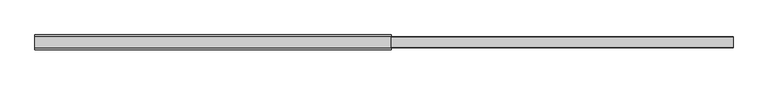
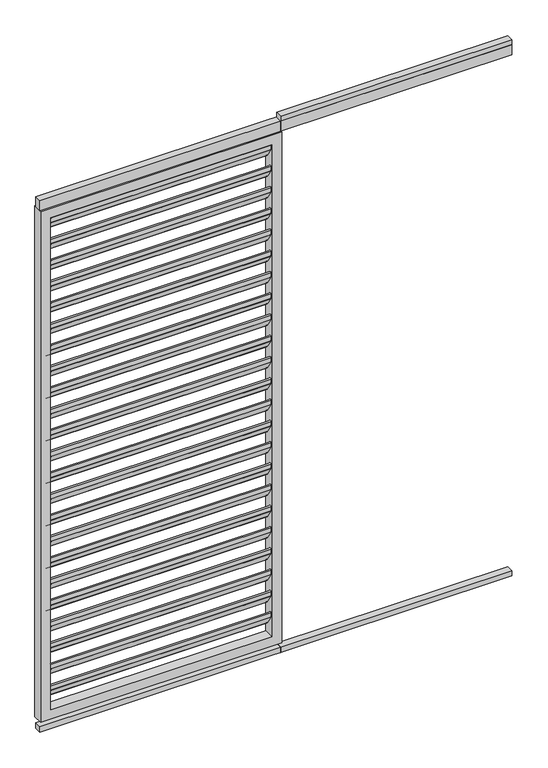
"""IFC4 building model written with IfcOpenShell, lengths in millimetres: proxy geometry, Renson_Algarve_Loggia_Paro_Aluminium : Renson_Algarve_Loggia_Paro_Aluminium."""

from ifc_helpers import new_model, si_unit, point, frame, frame_2d, origin, origin_with_axes, place, context, project, spatial, polyline, circle_curve, trimmed, segment, composite_curve, outline, extrude, source, transform, mapped, element, save


def generic_models_59c36368(model_context):
    return source(origin(), model_context, "Body", "SweptSolid", [
        extrude(outline(composite_curve([segment(polyline([(-10.1515804, 2164.292689), (14.3324079, 2126.5906532), (14.3324079, 2107.3412281)]), True, "CONTINUOUS"), segment(trimmed(circle_curve(frame_2d((11.3324079, 2107.3412281)), 3.0), [point((14.3324079, 2107.3412281))], [point((8.8163962, 2105.707311))], False, "CARTESIAN"), True, "CONTINUOUS"), segment(polyline([(8.8163962, 2105.707311), (-15.1836038, 2142.6640702)]), True, "CONTINUOUS"), segment(trimmed(circle_curve(frame_2d((-12.6675921, 2144.2979873)), 3.0), [point((-15.1836038, 2142.6640702))], [point((-15.6675921, 2144.2979873))], False, "CARTESIAN"), True, "CONTINUOUS"), segment(polyline([(-15.6675921, 2144.2979873), (-15.6675921, 2162.6587719)]), True, "CONTINUOUS"), segment(trimmed(circle_curve(frame_2d((-12.6675921, 2162.6587719)), 3.0), [point((-15.6675921, 2162.6587719))], [point((-10.1515804, 2164.292689))], False, "CARTESIAN"), True, "CONTINUOUS")], self_intersect=False)), frame((-442.5, 0.0, 0.0), z_axis=(1.0, 0.0, 0.0), x_axis=(0.0, 1.0, 0.0)), (0.0, 0.0, 1.0), 885.0),
        extrude(outline(composite_curve([segment(polyline([(-10.1515804, 2074.292689), (14.3324079, 2036.5906532), (14.3324079, 2017.3412281)]), True, "CONTINUOUS"), segment(trimmed(circle_curve(frame_2d((11.3324079, 2017.3412281)), 3.0), [point((14.3324079, 2017.3412281))], [point((8.8163962, 2015.707311))], False, "CARTESIAN"), True, "CONTINUOUS"), segment(polyline([(8.8163962, 2015.707311), (-15.1836038, 2052.6640702)]), True, "CONTINUOUS"), segment(trimmed(circle_curve(frame_2d((-12.6675921, 2054.2979873)), 3.0), [point((-15.1836038, 2052.6640702))], [point((-15.6675921, 2054.2979873))], False, "CARTESIAN"), True, "CONTINUOUS"), segment(polyline([(-15.6675921, 2054.2979873), (-15.6675921, 2072.6587719)]), True, "CONTINUOUS"), segment(trimmed(circle_curve(frame_2d((-12.6675921, 2072.6587719)), 3.0), [point((-15.6675921, 2072.6587719))], [point((-10.1515804, 2074.292689))], False, "CARTESIAN"), True, "CONTINUOUS")], self_intersect=False)), frame((-442.5, 0.0, 0.0), z_axis=(1.0, 0.0, 0.0), x_axis=(0.0, 1.0, 0.0)), (0.0, 0.0, 1.0), 885.0),
        extrude(outline(composite_curve([segment(polyline([(-10.1515804, 1984.292689), (14.3324079, 1946.5906532), (14.3324079, 1927.3412281)]), True, "CONTINUOUS"), segment(trimmed(circle_curve(frame_2d((11.3324079, 1927.3412281)), 3.0), [point((14.3324079, 1927.3412281))], [point((8.8163962, 1925.707311))], False, "CARTESIAN"), True, "CONTINUOUS"), segment(polyline([(8.8163962, 1925.707311), (-15.1836038, 1962.6640702)]), True, "CONTINUOUS"), segment(trimmed(circle_curve(frame_2d((-12.6675921, 1964.2979873)), 3.0), [point((-15.1836038, 1962.6640702))], [point((-15.6675921, 1964.2979873))], False, "CARTESIAN"), True, "CONTINUOUS"), segment(polyline([(-15.6675921, 1964.2979873), (-15.6675921, 1982.6587719)]), True, "CONTINUOUS"), segment(trimmed(circle_curve(frame_2d((-12.6675921, 1982.6587719)), 3.0), [point((-15.6675921, 1982.6587719))], [point((-10.1515804, 1984.292689))], False, "CARTESIAN"), True, "CONTINUOUS")], self_intersect=False)), frame((-442.5, 0.0, 0.0), z_axis=(1.0, 0.0, 0.0), x_axis=(0.0, 1.0, 0.0)), (0.0, 0.0, 1.0), 885.0),
        extrude(outline(composite_curve([segment(polyline([(-10.1515804, 1894.292689), (14.3324079, 1856.5906532), (14.3324079, 1837.3412281)]), True, "CONTINUOUS"), segment(trimmed(circle_curve(frame_2d((11.3324079, 1837.3412281)), 3.0), [point((14.3324079, 1837.3412281))], [point((8.8163962, 1835.707311))], False, "CARTESIAN"), True, "CONTINUOUS"), segment(polyline([(8.8163962, 1835.707311), (-15.1836038, 1872.6640702)]), True, "CONTINUOUS"), segment(trimmed(circle_curve(frame_2d((-12.6675921, 1874.2979873)), 3.0), [point((-15.1836038, 1872.6640702))], [point((-15.6675921, 1874.2979873))], False, "CARTESIAN"), True, "CONTINUOUS"), segment(polyline([(-15.6675921, 1874.2979873), (-15.6675921, 1892.6587719)]), True, "CONTINUOUS"), segment(trimmed(circle_curve(frame_2d((-12.6675921, 1892.6587719)), 3.0), [point((-15.6675921, 1892.6587719))], [point((-10.1515804, 1894.292689))], False, "CARTESIAN"), True, "CONTINUOUS")], self_intersect=False)), frame((-442.5, 0.0, 0.0), z_axis=(1.0, 0.0, 0.0), x_axis=(0.0, 1.0, 0.0)), (0.0, 0.0, 1.0), 885.0),
        extrude(outline(composite_curve([segment(polyline([(-10.1515804, 1804.292689), (14.3324079, 1766.5906532), (14.3324079, 1747.3412281)]), True, "CONTINUOUS"), segment(trimmed(circle_curve(frame_2d((11.3324079, 1747.3412281)), 3.0), [point((14.3324079, 1747.3412281))], [point((8.8163962, 1745.707311))], False, "CARTESIAN"), True, "CONTINUOUS"), segment(polyline([(8.8163962, 1745.707311), (-15.1836038, 1782.6640702)]), True, "CONTINUOUS"), segment(trimmed(circle_curve(frame_2d((-12.6675921, 1784.2979873)), 3.0), [point((-15.1836038, 1782.6640702))], [point((-15.6675921, 1784.2979873))], False, "CARTESIAN"), True, "CONTINUOUS"), segment(polyline([(-15.6675921, 1784.2979873), (-15.6675921, 1802.6587719)]), True, "CONTINUOUS"), segment(trimmed(circle_curve(frame_2d((-12.6675921, 1802.6587719)), 3.0), [point((-15.6675921, 1802.6587719))], [point((-10.1515804, 1804.292689))], False, "CARTESIAN"), True, "CONTINUOUS")], self_intersect=False)), frame((-442.5, 0.0, 0.0), z_axis=(1.0, 0.0, 0.0), x_axis=(0.0, 1.0, 0.0)), (0.0, 0.0, 1.0), 885.0),
        extrude(outline(composite_curve([segment(polyline([(-10.1515804, 1714.292689), (14.3324079, 1676.5906532), (14.3324079, 1657.3412281)]), True, "CONTINUOUS"), segment(trimmed(circle_curve(frame_2d((11.3324079, 1657.3412281)), 3.0), [point((14.3324079, 1657.3412281))], [point((8.8163962, 1655.707311))], False, "CARTESIAN"), True, "CONTINUOUS"), segment(polyline([(8.8163962, 1655.707311), (-15.1836038, 1692.6640702)]), True, "CONTINUOUS"), segment(trimmed(circle_curve(frame_2d((-12.6675921, 1694.2979873)), 3.0), [point((-15.1836038, 1692.6640702))], [point((-15.6675921, 1694.2979873))], False, "CARTESIAN"), True, "CONTINUOUS"), segment(polyline([(-15.6675921, 1694.2979873), (-15.6675921, 1712.6587719)]), True, "CONTINUOUS"), segment(trimmed(circle_curve(frame_2d((-12.6675921, 1712.6587719)), 3.0), [point((-15.6675921, 1712.6587719))], [point((-10.1515804, 1714.292689))], False, "CARTESIAN"), True, "CONTINUOUS")], self_intersect=False)), frame((-442.5, 0.0, 0.0), z_axis=(1.0, 0.0, 0.0), x_axis=(0.0, 1.0, 0.0)), (0.0, 0.0, 1.0), 885.0),
        extrude(outline(composite_curve([segment(polyline([(-10.1515804, 1624.292689), (14.3324079, 1586.5906532), (14.3324079, 1567.3412281)]), True, "CONTINUOUS"), segment(trimmed(circle_curve(frame_2d((11.3324079, 1567.3412281)), 3.0), [point((14.3324079, 1567.3412281))], [point((8.8163962, 1565.707311))], False, "CARTESIAN"), True, "CONTINUOUS"), segment(polyline([(8.8163962, 1565.707311), (-15.1836038, 1602.6640702)]), True, "CONTINUOUS"), segment(trimmed(circle_curve(frame_2d((-12.6675921, 1604.2979873)), 3.0), [point((-15.1836038, 1602.6640702))], [point((-15.6675921, 1604.2979873))], False, "CARTESIAN"), True, "CONTINUOUS"), segment(polyline([(-15.6675921, 1604.2979873), (-15.6675921, 1622.6587719)]), True, "CONTINUOUS"), segment(trimmed(circle_curve(frame_2d((-12.6675921, 1622.6587719)), 3.0), [point((-15.6675921, 1622.6587719))], [point((-10.1515804, 1624.292689))], False, "CARTESIAN"), True, "CONTINUOUS")], self_intersect=False)), frame((-442.5, 0.0, 0.0), z_axis=(1.0, 0.0, 0.0), x_axis=(0.0, 1.0, 0.0)), (0.0, 0.0, 1.0), 885.0),
        extrude(outline(composite_curve([segment(polyline([(-10.1515804, 1534.292689), (14.3324079, 1496.5906532), (14.3324079, 1477.3412281)]), True, "CONTINUOUS"), segment(trimmed(circle_curve(frame_2d((11.3324079, 1477.3412281)), 3.0), [point((14.3324079, 1477.3412281))], [point((8.8163962, 1475.707311))], False, "CARTESIAN"), True, "CONTINUOUS"), segment(polyline([(8.8163962, 1475.707311), (-15.1836038, 1512.6640702)]), True, "CONTINUOUS"), segment(trimmed(circle_curve(frame_2d((-12.6675921, 1514.2979873)), 3.0), [point((-15.1836038, 1512.6640702))], [point((-15.6675921, 1514.2979873))], False, "CARTESIAN"), True, "CONTINUOUS"), segment(polyline([(-15.6675921, 1514.2979873), (-15.6675921, 1532.6587719)]), True, "CONTINUOUS"), segment(trimmed(circle_curve(frame_2d((-12.6675921, 1532.6587719)), 3.0), [point((-15.6675921, 1532.6587719))], [point((-10.1515804, 1534.292689))], False, "CARTESIAN"), True, "CONTINUOUS")], self_intersect=False)), frame((-442.5, 0.0, 0.0), z_axis=(1.0, 0.0, 0.0), x_axis=(0.0, 1.0, 0.0)), (0.0, 0.0, 1.0), 885.0),
        extrude(outline(composite_curve([segment(polyline([(-10.1515804, 1444.292689), (14.3324079, 1406.5906532), (14.3324079, 1387.3412281)]), True, "CONTINUOUS"), segment(trimmed(circle_curve(frame_2d((11.3324079, 1387.3412281)), 3.0), [point((14.3324079, 1387.3412281))], [point((8.8163962, 1385.707311))], False, "CARTESIAN"), True, "CONTINUOUS"), segment(polyline([(8.8163962, 1385.707311), (-15.1836038, 1422.6640702)]), True, "CONTINUOUS"), segment(trimmed(circle_curve(frame_2d((-12.6675921, 1424.2979873)), 3.0), [point((-15.1836038, 1422.6640702))], [point((-15.6675921, 1424.2979873))], False, "CARTESIAN"), True, "CONTINUOUS"), segment(polyline([(-15.6675921, 1424.2979873), (-15.6675921, 1442.6587719)]), True, "CONTINUOUS"), segment(trimmed(circle_curve(frame_2d((-12.6675921, 1442.6587719)), 3.0), [point((-15.6675921, 1442.6587719))], [point((-10.1515804, 1444.292689))], False, "CARTESIAN"), True, "CONTINUOUS")], self_intersect=False)), frame((-442.5, 0.0, 0.0), z_axis=(1.0, 0.0, 0.0), x_axis=(0.0, 1.0, 0.0)), (0.0, 0.0, 1.0), 885.0),
        extrude(outline(composite_curve([segment(polyline([(-10.1515804, 1354.292689), (14.3324079, 1316.5906532), (14.3324079, 1297.3412281)]), True, "CONTINUOUS"), segment(trimmed(circle_curve(frame_2d((11.3324079, 1297.3412281)), 3.0), [point((14.3324079, 1297.3412281))], [point((8.8163962, 1295.707311))], False, "CARTESIAN"), True, "CONTINUOUS"), segment(polyline([(8.8163962, 1295.707311), (-15.1836038, 1332.6640702)]), True, "CONTINUOUS"), segment(trimmed(circle_curve(frame_2d((-12.6675921, 1334.2979873)), 3.0), [point((-15.1836038, 1332.6640702))], [point((-15.6675921, 1334.2979873))], False, "CARTESIAN"), True, "CONTINUOUS"), segment(polyline([(-15.6675921, 1334.2979873), (-15.6675921, 1352.6587719)]), True, "CONTINUOUS"), segment(trimmed(circle_curve(frame_2d((-12.6675921, 1352.6587719)), 3.0), [point((-15.6675921, 1352.6587719))], [point((-10.1515804, 1354.292689))], False, "CARTESIAN"), True, "CONTINUOUS")], self_intersect=False)), frame((-442.5, 0.0, 0.0), z_axis=(1.0, 0.0, 0.0), x_axis=(0.0, 1.0, 0.0)), (0.0, 0.0, 1.0), 885.0),
        extrude(outline(composite_curve([segment(polyline([(-10.1515804, 1264.292689), (14.3324079, 1226.5906532), (14.3324079, 1207.3412281)]), True, "CONTINUOUS"), segment(trimmed(circle_curve(frame_2d((11.3324079, 1207.3412281)), 3.0), [point((14.3324079, 1207.3412281))], [point((8.8163962, 1205.707311))], False, "CARTESIAN"), True, "CONTINUOUS"), segment(polyline([(8.8163962, 1205.707311), (-15.1836038, 1242.6640702)]), True, "CONTINUOUS"), segment(trimmed(circle_curve(frame_2d((-12.6675921, 1244.2979873)), 3.0), [point((-15.1836038, 1242.6640702))], [point((-15.6675921, 1244.2979873))], False, "CARTESIAN"), True, "CONTINUOUS"), segment(polyline([(-15.6675921, 1244.2979873), (-15.6675921, 1262.6587719)]), True, "CONTINUOUS"), segment(trimmed(circle_curve(frame_2d((-12.6675921, 1262.6587719)), 3.0), [point((-15.6675921, 1262.6587719))], [point((-10.1515804, 1264.292689))], False, "CARTESIAN"), True, "CONTINUOUS")], self_intersect=False)), frame((-442.5, 0.0, 0.0), z_axis=(1.0, 0.0, 0.0), x_axis=(0.0, 1.0, 0.0)), (0.0, 0.0, 1.0), 885.0),
        extrude(outline(composite_curve([segment(polyline([(-10.1515804, 1174.292689), (14.3324079, 1136.5906532), (14.3324079, 1117.3412281)]), True, "CONTINUOUS"), segment(trimmed(circle_curve(frame_2d((11.3324079, 1117.3412281)), 3.0), [point((14.3324079, 1117.3412281))], [point((8.8163962, 1115.707311))], False, "CARTESIAN"), True, "CONTINUOUS"), segment(polyline([(8.8163962, 1115.707311), (-15.1836038, 1152.6640702)]), True, "CONTINUOUS"), segment(trimmed(circle_curve(frame_2d((-12.6675921, 1154.2979873)), 3.0), [point((-15.1836038, 1152.6640702))], [point((-15.6675921, 1154.2979873))], False, "CARTESIAN"), True, "CONTINUOUS"), segment(polyline([(-15.6675921, 1154.2979873), (-15.6675921, 1172.6587719)]), True, "CONTINUOUS"), segment(trimmed(circle_curve(frame_2d((-12.6675921, 1172.6587719)), 3.0), [point((-15.6675921, 1172.6587719))], [point((-10.1515804, 1174.292689))], False, "CARTESIAN"), True, "CONTINUOUS")], self_intersect=False)), frame((-442.5, 0.0, 0.0), z_axis=(1.0, 0.0, 0.0), x_axis=(0.0, 1.0, 0.0)), (0.0, 0.0, 1.0), 885.0),
        extrude(outline(composite_curve([segment(polyline([(-10.1515804, 1084.292689), (14.3324079, 1046.5906532), (14.3324079, 1027.3412281)]), True, "CONTINUOUS"), segment(trimmed(circle_curve(frame_2d((11.3324079, 1027.3412281)), 3.0), [point((14.3324079, 1027.3412281))], [point((8.8163962, 1025.707311))], False, "CARTESIAN"), True, "CONTINUOUS"), segment(polyline([(8.8163962, 1025.707311), (-15.1836038, 1062.6640702)]), True, "CONTINUOUS"), segment(trimmed(circle_curve(frame_2d((-12.6675921, 1064.2979873)), 3.0), [point((-15.1836038, 1062.6640702))], [point((-15.6675921, 1064.2979873))], False, "CARTESIAN"), True, "CONTINUOUS"), segment(polyline([(-15.6675921, 1064.2979873), (-15.6675921, 1082.6587719)]), True, "CONTINUOUS"), segment(trimmed(circle_curve(frame_2d((-12.6675921, 1082.6587719)), 3.0), [point((-15.6675921, 1082.6587719))], [point((-10.1515804, 1084.292689))], False, "CARTESIAN"), True, "CONTINUOUS")], self_intersect=False)), frame((-442.5, 0.0, 0.0), z_axis=(1.0, 0.0, 0.0), x_axis=(0.0, 1.0, 0.0)), (0.0, 0.0, 1.0), 885.0),
        extrude(outline(composite_curve([segment(polyline([(-10.1515804, 994.292689), (14.3324079, 956.5906532), (14.3324079, 937.3412281)]), True, "CONTINUOUS"), segment(trimmed(circle_curve(frame_2d((11.3324079, 937.3412281)), 3.0), [point((14.3324079, 937.3412281))], [point((8.8163962, 935.707311))], False, "CARTESIAN"), True, "CONTINUOUS"), segment(polyline([(8.8163962, 935.707311), (-15.1836038, 972.6640702)]), True, "CONTINUOUS"), segment(trimmed(circle_curve(frame_2d((-12.6675921, 974.2979873)), 3.0), [point((-15.1836038, 972.6640702))], [point((-15.6675921, 974.2979873))], False, "CARTESIAN"), True, "CONTINUOUS"), segment(polyline([(-15.6675921, 974.2979873), (-15.6675921, 992.6587719)]), True, "CONTINUOUS"), segment(trimmed(circle_curve(frame_2d((-12.6675921, 992.6587719)), 3.0), [point((-15.6675921, 992.6587719))], [point((-10.1515804, 994.292689))], False, "CARTESIAN"), True, "CONTINUOUS")], self_intersect=False)), frame((-442.5, 0.0, 0.0), z_axis=(1.0, 0.0, 0.0), x_axis=(0.0, 1.0, 0.0)), (0.0, 0.0, 1.0), 885.0),
        extrude(outline(composite_curve([segment(polyline([(-10.1515804, 904.292689), (14.3324079, 866.5906532), (14.3324079, 847.3412281)]), True, "CONTINUOUS"), segment(trimmed(circle_curve(frame_2d((11.3324079, 847.3412281)), 3.0), [point((14.3324079, 847.3412281))], [point((8.8163962, 845.707311))], False, "CARTESIAN"), True, "CONTINUOUS"), segment(polyline([(8.8163962, 845.707311), (-15.1836038, 882.6640702)]), True, "CONTINUOUS"), segment(trimmed(circle_curve(frame_2d((-12.6675921, 884.2979873)), 3.0), [point((-15.1836038, 882.6640702))], [point((-15.6675921, 884.2979873))], False, "CARTESIAN"), True, "CONTINUOUS"), segment(polyline([(-15.6675921, 884.2979873), (-15.6675921, 902.6587719)]), True, "CONTINUOUS"), segment(trimmed(circle_curve(frame_2d((-12.6675921, 902.6587719)), 3.0), [point((-15.6675921, 902.6587719))], [point((-10.1515804, 904.292689))], False, "CARTESIAN"), True, "CONTINUOUS")], self_intersect=False)), frame((-442.5, 0.0, 0.0), z_axis=(1.0, 0.0, 0.0), x_axis=(0.0, 1.0, 0.0)), (0.0, 0.0, 1.0), 885.0),
        extrude(outline(composite_curve([segment(polyline([(-10.1515804, 814.292689), (14.3324079, 776.5906532), (14.3324079, 757.3412281)]), True, "CONTINUOUS"), segment(trimmed(circle_curve(frame_2d((11.3324079, 757.3412281)), 3.0), [point((14.3324079, 757.3412281))], [point((8.8163962, 755.707311))], False, "CARTESIAN"), True, "CONTINUOUS"), segment(polyline([(8.8163962, 755.707311), (-15.1836038, 792.6640702)]), True, "CONTINUOUS"), segment(trimmed(circle_curve(frame_2d((-12.6675921, 794.2979873)), 3.0), [point((-15.1836038, 792.6640702))], [point((-15.6675921, 794.2979873))], False, "CARTESIAN"), True, "CONTINUOUS"), segment(polyline([(-15.6675921, 794.2979873), (-15.6675921, 812.6587719)]), True, "CONTINUOUS"), segment(trimmed(circle_curve(frame_2d((-12.6675921, 812.6587719)), 3.0), [point((-15.6675921, 812.6587719))], [point((-10.1515804, 814.292689))], False, "CARTESIAN"), True, "CONTINUOUS")], self_intersect=False)), frame((-442.5, 0.0, 0.0), z_axis=(1.0, 0.0, 0.0), x_axis=(0.0, 1.0, 0.0)), (0.0, 0.0, 1.0), 885.0),
        extrude(outline(composite_curve([segment(polyline([(-10.1515804, 724.292689), (14.3324079, 686.5906532), (14.3324079, 667.3412281)]), True, "CONTINUOUS"), segment(trimmed(circle_curve(frame_2d((11.3324079, 667.3412281)), 3.0), [point((14.3324079, 667.3412281))], [point((8.8163962, 665.707311))], False, "CARTESIAN"), True, "CONTINUOUS"), segment(polyline([(8.8163962, 665.707311), (-15.1836038, 702.6640702)]), True, "CONTINUOUS"), segment(trimmed(circle_curve(frame_2d((-12.6675921, 704.2979873)), 3.0), [point((-15.1836038, 702.6640702))], [point((-15.6675921, 704.2979873))], False, "CARTESIAN"), True, "CONTINUOUS"), segment(polyline([(-15.6675921, 704.2979873), (-15.6675921, 722.6587719)]), True, "CONTINUOUS"), segment(trimmed(circle_curve(frame_2d((-12.6675921, 722.6587719)), 3.0), [point((-15.6675921, 722.6587719))], [point((-10.1515804, 724.292689))], False, "CARTESIAN"), True, "CONTINUOUS")], self_intersect=False)), frame((-442.5, 0.0, 0.0), z_axis=(1.0, 0.0, 0.0), x_axis=(0.0, 1.0, 0.0)), (0.0, 0.0, 1.0), 885.0),
        extrude(outline(composite_curve([segment(polyline([(-10.1515804, 634.292689), (14.3324079, 596.5906532), (14.3324079, 577.3412281)]), True, "CONTINUOUS"), segment(trimmed(circle_curve(frame_2d((11.3324079, 577.3412281)), 3.0), [point((14.3324079, 577.3412281))], [point((8.8163962, 575.707311))], False, "CARTESIAN"), True, "CONTINUOUS"), segment(polyline([(8.8163962, 575.707311), (-15.1836038, 612.6640702)]), True, "CONTINUOUS"), segment(trimmed(circle_curve(frame_2d((-12.6675921, 614.2979873)), 3.0), [point((-15.1836038, 612.6640702))], [point((-15.6675921, 614.2979873))], False, "CARTESIAN"), True, "CONTINUOUS"), segment(polyline([(-15.6675921, 614.2979873), (-15.6675921, 632.6587719)]), True, "CONTINUOUS"), segment(trimmed(circle_curve(frame_2d((-12.6675921, 632.6587719)), 3.0), [point((-15.6675921, 632.6587719))], [point((-10.1515804, 634.292689))], False, "CARTESIAN"), True, "CONTINUOUS")], self_intersect=False)), frame((-442.5, 0.0, 0.0), z_axis=(1.0, 0.0, 0.0), x_axis=(0.0, 1.0, 0.0)), (0.0, 0.0, 1.0), 885.0),
        extrude(outline(composite_curve([segment(polyline([(-10.1515804, 544.292689), (14.3324079, 506.5906532), (14.3324079, 487.3412281)]), True, "CONTINUOUS"), segment(trimmed(circle_curve(frame_2d((11.3324079, 487.3412281)), 3.0), [point((14.3324079, 487.3412281))], [point((8.8163962, 485.707311))], False, "CARTESIAN"), True, "CONTINUOUS"), segment(polyline([(8.8163962, 485.707311), (-15.1836038, 522.6640702)]), True, "CONTINUOUS"), segment(trimmed(circle_curve(frame_2d((-12.6675921, 524.2979873)), 3.0), [point((-15.1836038, 522.6640702))], [point((-15.6675921, 524.2979873))], False, "CARTESIAN"), True, "CONTINUOUS"), segment(polyline([(-15.6675921, 524.2979873), (-15.6675921, 542.6587719)]), True, "CONTINUOUS"), segment(trimmed(circle_curve(frame_2d((-12.6675921, 542.6587719)), 3.0), [point((-15.6675921, 542.6587719))], [point((-10.1515804, 544.292689))], False, "CARTESIAN"), True, "CONTINUOUS")], self_intersect=False)), frame((-442.5, 0.0, 0.0), z_axis=(1.0, 0.0, 0.0), x_axis=(0.0, 1.0, 0.0)), (0.0, 0.0, 1.0), 885.0),
        extrude(outline(composite_curve([segment(polyline([(-10.1515804, 454.292689), (14.3324079, 416.5906532), (14.3324079, 397.3412281)]), True, "CONTINUOUS"), segment(trimmed(circle_curve(frame_2d((11.3324079, 397.3412281)), 3.0), [point((14.3324079, 397.3412281))], [point((8.8163962, 395.707311))], False, "CARTESIAN"), True, "CONTINUOUS"), segment(polyline([(8.8163962, 395.707311), (-15.1836038, 432.6640702)]), True, "CONTINUOUS"), segment(trimmed(circle_curve(frame_2d((-12.6675921, 434.2979873)), 3.0), [point((-15.1836038, 432.6640702))], [point((-15.6675921, 434.2979873))], False, "CARTESIAN"), True, "CONTINUOUS"), segment(polyline([(-15.6675921, 434.2979873), (-15.6675921, 452.6587719)]), True, "CONTINUOUS"), segment(trimmed(circle_curve(frame_2d((-12.6675921, 452.6587719)), 3.0), [point((-15.6675921, 452.6587719))], [point((-10.1515804, 454.292689))], False, "CARTESIAN"), True, "CONTINUOUS")], self_intersect=False)), frame((-442.5, 0.0, 0.0), z_axis=(1.0, 0.0, 0.0), x_axis=(0.0, 1.0, 0.0)), (0.0, 0.0, 1.0), 885.0),
        extrude(outline(composite_curve([segment(polyline([(-10.1515804, 364.292689), (14.3324079, 326.5906532), (14.3324079, 307.3412281)]), True, "CONTINUOUS"), segment(trimmed(circle_curve(frame_2d((11.3324079, 307.3412281)), 3.0), [point((14.3324079, 307.3412281))], [point((8.8163962, 305.707311))], False, "CARTESIAN"), True, "CONTINUOUS"), segment(polyline([(8.8163962, 305.707311), (-15.1836038, 342.6640702)]), True, "CONTINUOUS"), segment(trimmed(circle_curve(frame_2d((-12.6675921, 344.2979873)), 3.0), [point((-15.1836038, 342.6640702))], [point((-15.6675921, 344.2979873))], False, "CARTESIAN"), True, "CONTINUOUS"), segment(polyline([(-15.6675921, 344.2979873), (-15.6675921, 362.6587719)]), True, "CONTINUOUS"), segment(trimmed(circle_curve(frame_2d((-12.6675921, 362.6587719)), 3.0), [point((-15.6675921, 362.6587719))], [point((-10.1515804, 364.292689))], False, "CARTESIAN"), True, "CONTINUOUS")], self_intersect=False)), frame((-442.5, 0.0, 0.0), z_axis=(1.0, 0.0, 0.0), x_axis=(0.0, 1.0, 0.0)), (0.0, 0.0, 1.0), 885.0),
        extrude(outline(composite_curve([segment(polyline([(-10.1515804, 274.292689), (14.3324079, 236.5906532), (14.3324079, 217.3412281)]), True, "CONTINUOUS"), segment(trimmed(circle_curve(frame_2d((11.3324079, 217.3412281)), 3.0), [point((14.3324079, 217.3412281))], [point((8.8163962, 215.707311))], False, "CARTESIAN"), True, "CONTINUOUS"), segment(polyline([(8.8163962, 215.707311), (-15.1836038, 252.6640702)]), True, "CONTINUOUS"), segment(trimmed(circle_curve(frame_2d((-12.6675921, 254.2979873)), 3.0), [point((-15.1836038, 252.6640702))], [point((-15.6675921, 254.2979873))], False, "CARTESIAN"), True, "CONTINUOUS"), segment(polyline([(-15.6675921, 254.2979873), (-15.6675921, 272.6587719)]), True, "CONTINUOUS"), segment(trimmed(circle_curve(frame_2d((-12.6675921, 272.6587719)), 3.0), [point((-15.6675921, 272.6587719))], [point((-10.1515804, 274.292689))], False, "CARTESIAN"), True, "CONTINUOUS")], self_intersect=False)), frame((-442.5, 0.0, 0.0), z_axis=(1.0, 0.0, 0.0), x_axis=(0.0, 1.0, 0.0)), (0.0, 0.0, 1.0), 885.0),
        extrude(outline(composite_curve([segment(polyline([(-10.1515804, 184.292689), (14.3324079, 146.5906532), (14.3324079, 127.3412281)]), True, "CONTINUOUS"), segment(trimmed(circle_curve(frame_2d((11.3324079, 127.3412281)), 3.0), [point((14.3324079, 127.3412281))], [point((8.8163962, 125.707311))], False, "CARTESIAN"), True, "CONTINUOUS"), segment(polyline([(8.8163962, 125.707311), (-15.1836038, 162.6640702)]), True, "CONTINUOUS"), segment(trimmed(circle_curve(frame_2d((-12.6675921, 164.2979873)), 3.0), [point((-15.1836038, 162.6640702))], [point((-15.6675921, 164.2979873))], False, "CARTESIAN"), True, "CONTINUOUS"), segment(polyline([(-15.6675921, 164.2979873), (-15.6675921, 182.6587719)]), True, "CONTINUOUS"), segment(trimmed(circle_curve(frame_2d((-12.6675921, 182.6587719)), 3.0), [point((-15.6675921, 182.6587719))], [point((-10.1515804, 184.292689))], False, "CARTESIAN"), True, "CONTINUOUS")], self_intersect=False)), frame((-442.5, 0.0, 0.0), z_axis=(1.0, 0.0, 0.0), x_axis=(0.0, 1.0, 0.0)), (0.0, 0.0, 1.0), 885.0),
        extrude(outline(polyline([(1407.5, 13.0), (1407.5, -14.0), (481.5, -14.0), (481.5, 13.0), (1407.5, 13.0)])), frame((0.0, 0.0, 2250.0), z_axis=(0.0, 0.0, 1.0), x_axis=(1.0, 0.0, 0.0)), (0.0, 0.0, 1.0), 20.0),
        extrude(outline(polyline([(482.5, -15.0), (481.5, -15.0), (481.5, 15.0), (482.5, 15.0), (482.5, -15.0)])), frame((0.0, 0.0, 2207.7138321), z_axis=(0.0, 0.0, 1.0), x_axis=(1.0, 0.0, 0.0)), (0.0, 0.0, 1.0), 42.2861679),
        extrude(outline(polyline([(1407.5, -15.0), (-482.5, -15.0), (-482.5, 15.0), (1407.5, 15.0), (1407.5, -15.0)])), frame((0.0, 0.0, 2207.7138321), z_axis=(0.0, 0.0, 1.0), x_axis=(1.0, 0.0, 0.0)), (0.0, 0.0, 1.0), 42.2861679),
        extrude(outline(polyline([(482.5, 13.0), (482.5, -14.0), (481.5, -14.0), (481.5, 13.0), (482.5, 13.0)])), origin_with_axes(), (0.0, 0.0, 1.0), 23.0),
        extrude(outline(polyline([(1407.5, 13.0), (1407.5, -14.0), (-482.5, -14.0), (-482.5, 13.0), (1407.5, 13.0)])), origin_with_axes(), (0.0, 0.0, 1.0), 23.0),
        extrude(outline(polyline([(2207.7138321, 482.5), (2207.7138321, -482.5), (45.0, -482.5), (45.0, 482.5), (2207.7138321, 482.5)]), holes=[polyline([(2167.7138321, -442.5), (2167.7138321, 442.5), (85.0, 442.5), (85.0, -442.5), (2167.7138321, -442.5)])]), frame((0.0, -20.0, 0.0), z_axis=(0.0, 1.0, 0.0), x_axis=(0.0, 0.0, 1.0)), (0.0, 0.0, 1.0), 40.0),
    ])


if __name__ == "__main__":
    model = new_model("IFC4")
    model_context = context("Model", 3, world=origin())
    ifc_project = project(units=[si_unit("LENGTHUNIT", "METRE", prefix="MILLI")], contexts=[model_context])
    site = spatial("IfcSite", under=ifc_project)
    building = spatial("IfcBuilding", under=site)
    placement = place(None, origin())
    generic_models_shape = generic_models_59c36368(model_context)
    element("IfcBuildingElementProxy", 1, Name="Renson_Algarve_Loggia_Paro_Aluminium : Renson_Algarve_Loggia_Paro_Aluminium", ObjectType="Renson_Algarve_Loggia_Paro_Aluminium : Renson_Algarve_Loggia_Paro_Aluminium", at=placement, inside=building, context=model_context, shape_type="MappedRepresentation", body=[
        mapped(generic_models_shape, transform((0.0, 0.0, 0.0), x_axis=(1.0, 0.0, 0.0), y_axis=(0.0, 1.0, 0.0), z_axis=(0.0, 0.0, 1.0))),
    ])
    save(model, "model.ifc")
